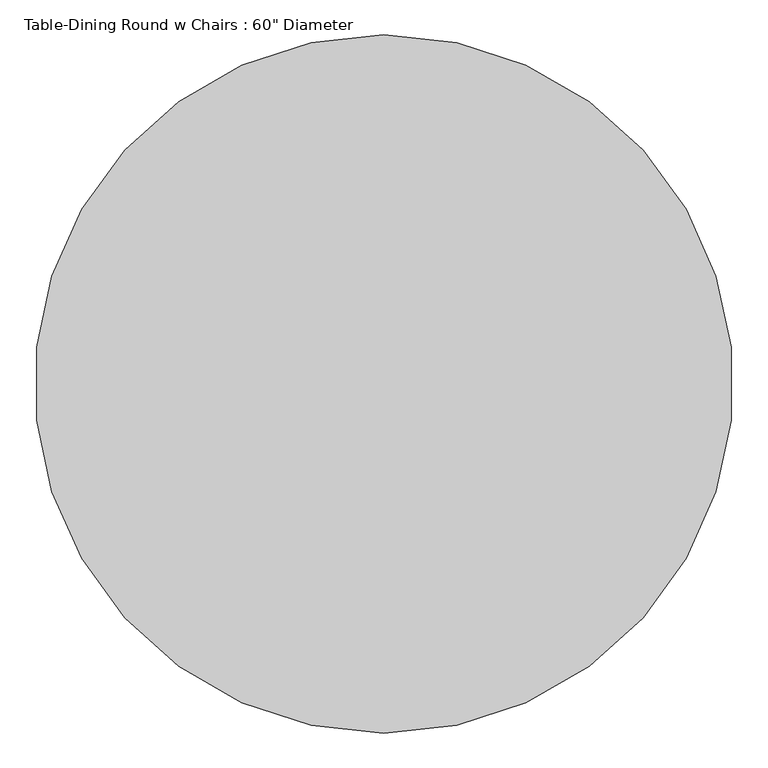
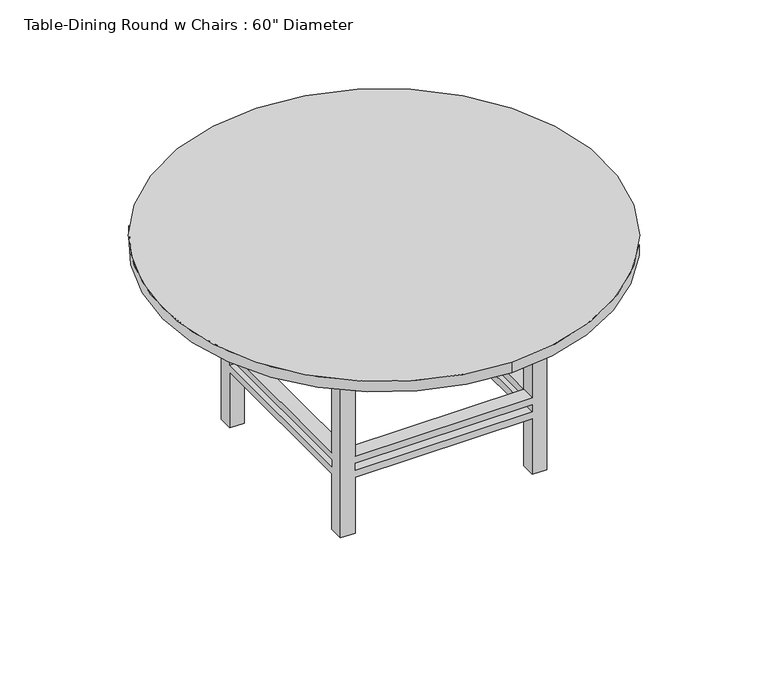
"""IFC4 building model written with IfcOpenShell, lengths in millimetres: furniture geometry."""

from ifc_helpers import new_model, si_unit, point, frame, frame_2d, origin, place, context, project, spatial, polyline, circle_curve, trimmed, segment, composite_curve, outline, extrude, faceted_brep, source, transform, mapped, element, save


def furniture_bbcc68ce(model_context):
    return source(origin(), model_context, "Body", "SolidModel", [
        faceted_brep([(408.4819672, 119.9213115, 279.4), (408.4819672, -489.6786885, 279.4), (459.2819672, -489.6786885, 279.4), (459.2819672, 119.9213115, 279.4), (-201.1180328, -489.6786885, 279.4), (-201.1180328, -540.4786885, 279.4), (408.4819672, -540.4786885, 279.4), (-201.1180328, 119.9213115, 279.4), (-251.9180328, 119.9213115, 279.4), (-251.9180328, -489.6786885, 279.4), (408.4819672, 170.7213115, 279.4), (-201.1180328, 170.7213115, 279.4), (408.4819672, 119.9213115, 254.0), (-201.1180328, 119.9213115, 254.0), (-201.1180328, 170.7213115, 254.0), (408.4819672, 170.7213115, 254.0), (-201.1180328, -489.6786885, 254.0), (-251.9180328, -489.6786885, 254.0), (-251.9180328, 119.9213115, 254.0), (408.4819672, -489.6786885, 254.0), (408.4819672, -540.4786885, 254.0), (-201.1180328, -540.4786885, 254.0), (459.2819672, 119.9213115, 254.0), (459.2819672, -489.6786885, 254.0), (-251.9180328, 170.7213115, 647.7), (-201.1180328, 170.7213115, 647.7), (408.4819672, 170.7213115, 647.7), (459.2819672, 170.7213115, 647.7), (459.2819672, 170.7213115, 0.0), (408.4819672, 170.7213115, 0.0), (408.4819672, 170.7213115, 203.2), (-201.1180328, 170.7213115, 203.2), (-201.1180328, 170.7213115, 0.0), (-251.9180328, 170.7213115, 0.0), (-201.1180328, 170.7213115, 228.6), (408.4819672, 170.7213115, 228.6), (-251.9180328, 119.9213115, 647.7), (-251.9180328, 119.9213115, 0.0), (-251.9180328, 119.9213115, 203.2), (-251.9180328, -489.6786885, 203.2), (-251.9180328, -489.6786885, 0.0), (-251.9180328, -540.4786885, 0.0), (-251.9180328, -540.4786885, 647.7), (-251.9180328, -489.6786885, 647.7), (-251.9180328, -489.6786885, 228.6), (-251.9180328, 119.9213115, 228.6), (459.2819672, -540.4786885, 647.7), (408.4819672, -540.4786885, 647.7), (-201.1180328, -540.4786885, 647.7), (-201.1180328, -540.4786885, 0.0), (-201.1180328, -540.4786885, 203.2), (408.4819672, -540.4786885, 203.2), (408.4819672, -540.4786885, 0.0), (459.2819672, -540.4786885, 0.0), (408.4819672, -540.4786885, 228.6), (-201.1180328, -540.4786885, 228.6), (459.2819672, 119.9213115, 647.7), (459.2819672, -489.6786885, 647.7), (459.2819672, -489.6786885, 0.0), (459.2819672, -489.6786885, 203.2), (459.2819672, 119.9213115, 203.2), (459.2819672, 119.9213115, 0.0), (459.2819672, 119.9213115, 228.6), (459.2819672, -489.6786885, 228.6), (-201.1180328, 119.9213115, 647.7), (408.4819672, -489.6786885, 647.7), (408.4819672, 119.9213115, 647.7), (-201.1180328, -489.6786885, 647.7), (408.4819672, 119.9213115, 0.0), (-201.1180328, -489.6786885, 0.0), (-201.1180328, 119.9213115, 0.0), (408.4819672, -489.6786885, 0.0), (-201.1180328, 119.9213115, 228.6), (-201.1180328, 119.9213115, 203.2), (408.4819672, 119.9213115, 228.6), (408.4819672, 119.9213115, 203.2), (408.4819672, -489.6786885, 228.6), (408.4819672, -489.6786885, 203.2), (-201.1180328, -489.6786885, 228.6), (-201.1180328, -489.6786885, 203.2)], [[[0, 1, 2, 3]], [[1, 4, 5, 6]], [[4, 7, 8, 9]], [[7, 0, 10, 11]], [[12, 13, 14, 15]], [[13, 16, 17, 18]], [[16, 19, 20, 21]], [[19, 12, 22, 23]], [[24, 25, 11, 10, 26, 27, 28, 29, 30, 31, 32, 33], [14, 34, 35, 15]], [[36, 24, 33, 37, 38, 39, 40, 41, 42, 43, 9, 8], [17, 44, 45, 18]], [[46, 47, 6, 5, 48, 42, 41, 49, 50, 51, 52, 53], [20, 54, 55, 21]], [[28, 27, 56, 3, 2, 57, 46, 53, 58, 59, 60, 61], [22, 62, 63, 23]], [[1, 0, 12, 19]], [[4, 1, 19, 16]], [[7, 4, 16, 13]], [[0, 7, 13, 12]], [[25, 24, 36, 64]], [[47, 46, 57, 65]], [[26, 66, 56, 27]], [[48, 67, 43, 42]], [[29, 28, 61, 68]], [[49, 41, 40, 69]], [[32, 70, 37, 33]], [[52, 71, 58, 53]], [[13, 18, 45, 72]], [[64, 36, 8, 7]], [[37, 70, 73, 38]], [[14, 13, 72, 34]], [[25, 64, 7, 11]], [[70, 32, 31, 73]], [[12, 15, 35, 74]], [[66, 26, 10, 0]], [[29, 68, 75, 30]], [[22, 12, 74, 62]], [[56, 66, 0, 3]], [[68, 61, 60, 75]], [[19, 23, 63, 76]], [[65, 57, 2, 1]], [[58, 71, 77, 59]], [[20, 19, 76, 54]], [[47, 65, 1, 6]], [[71, 52, 51, 77]], [[16, 21, 55, 78]], [[67, 48, 5, 4]], [[49, 69, 79, 50]], [[17, 16, 78, 44]], [[43, 67, 4, 9]], [[69, 40, 39, 79]], [[74, 76, 63, 62]], [[76, 78, 55, 54]], [[78, 72, 45, 44]], [[72, 74, 35, 34]], [[75, 73, 31, 30]], [[73, 79, 39, 38]], [[79, 77, 51, 50]], [[77, 75, 60, 59]], [[76, 74, 75, 77]], [[78, 76, 77, 79]], [[72, 78, 79, 73]], [[74, 72, 73, 75]]]),
        extrude(outline(polyline([(484.6819672, 196.1213115), (484.6819672, -565.8786885), (-277.3180328, -565.8786885), (-277.3180328, 196.1213115), (484.6819672, 196.1213115)]), holes=[polyline([(459.2819672, 170.7213115), (-251.9180328, 170.7213115), (-251.9180328, -540.4786885), (459.2819672, -540.4786885), (459.2819672, 170.7213115)])]), frame((0.0, 0.0, 647.7), z_axis=(0.0, 0.0, 1.0), x_axis=(1.0, 0.0, 0.0)), (0.0, 0.0, 1.0), 76.2),
        extrude(outline(composite_curve([segment(trimmed(circle_curve(frame_2d((103.6819672, -184.8786885)), 762.0), [point((103.6819672, -946.8786885))], [point((103.6819672, 577.1213115))], False, "CARTESIAN"), True, "CONTINUOUS"), segment(trimmed(circle_curve(frame_2d((103.6819672, -184.8786885)), 762.0), [point((103.6819672, 577.1213115))], [point((103.6819672, -946.8786885))], False, "CARTESIAN"), True, "CONTINUOUS")], self_intersect=False)), frame((0.0, 0.0, 723.9), z_axis=(0.0, 0.0, 1.0), x_axis=(1.0, 0.0, 0.0)), (0.0, 0.0, 1.0), 38.1),
    ])


if __name__ == "__main__":
    model = new_model("IFC4")
    model_context = context("Model", 3, world=origin())
    ifc_project = project(units=[si_unit("LENGTHUNIT", "METRE", prefix="MILLI")], contexts=[model_context])
    site = spatial("IfcSite", under=ifc_project)
    building = spatial("IfcBuilding", under=site)
    placement = place(None, origin())
    furniture_shape = furniture_bbcc68ce(model_context)
    element("IfcFurniture", 1, ObjectType="Table-Dining Round w Chairs : 60\" Diameter", at=placement, inside=building, context=model_context, shape_type="MappedRepresentation", body=[
        mapped(furniture_shape, transform((0.0, 0.0, 0.0), x_axis=(1.0, 0.0, 0.0), y_axis=(0.0, 1.0, 0.0), z_axis=(0.0, 0.0, 1.0))),
    ])
    save(model, "model.ifc")
